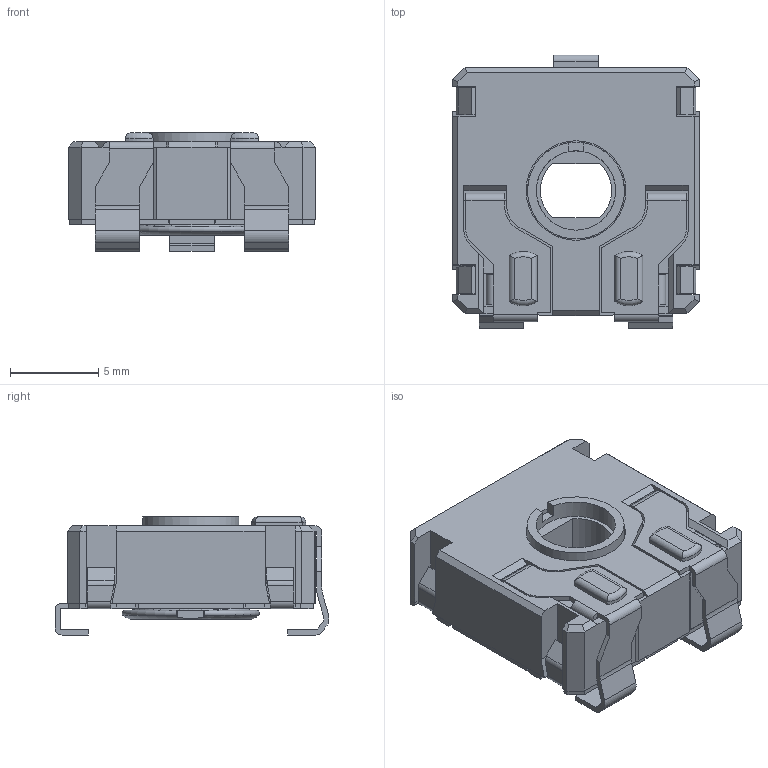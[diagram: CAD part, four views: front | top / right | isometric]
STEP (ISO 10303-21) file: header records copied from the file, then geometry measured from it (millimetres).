
FILE_DESCRIPTION(/* description */ (''),/* implementation_level */ '2;1');
FILE_NAME(/* name */ 'C:\Users\CEM\Desktop\ENVIAR\TRANSICION 3D CATALOGOS\CS14NVSMD.stp',/* time_stamp */ '2025-10-24T17:50:23+02:00',/* author */ ('CEM'),/* organization */ (''),/* preprocessor_version */ 'ST-DEVELOPER v17',/* originating_system */ 'Autodesk Inventor 2018',/* authorisation */ '');
FILE_SCHEMA (('AUTOMOTIVE_DESIGN { 1 0 10303 214 3 1 1 }'));
Length unit declared in the file: millimetre
Products named in the file (1): CS14NVSMD
Bounding box: 14 x 15.55 x 6.7 mm (x, y, z)
Volume: 553.1 mm3; surface area: 1599.1 mm2
Topology: 1 solids, 3 shells, 640 faces, 1806 edges, 1161 vertices
Faces by surface type: plane 490, cylinder 116, cone 15, bspline 10, torus 9
Full cylindrical faces by diameter (mm): 4.5 x1, 5.5 x1, 5.65 x1, 6.87 x1
Entity records: 21456 total; most frequent: CARTESIAN_POINT 4035, ORIENTED_EDGE 3612, DIRECTION 3340, EDGE_CURVE 1806, LINE 1424, VECTOR 1424, VERTEX_POINT 1161, AXIS2_PLACEMENT_3D 958
